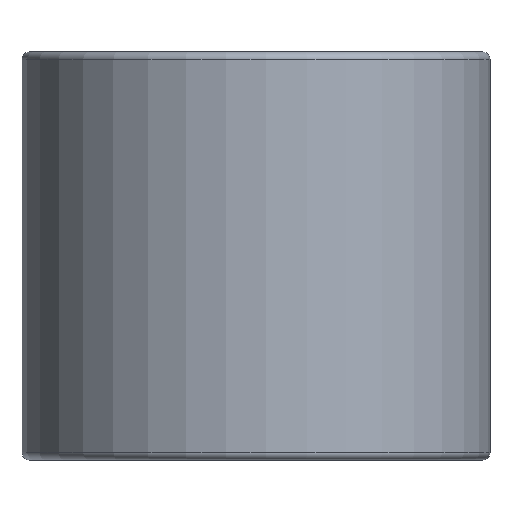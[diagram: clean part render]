
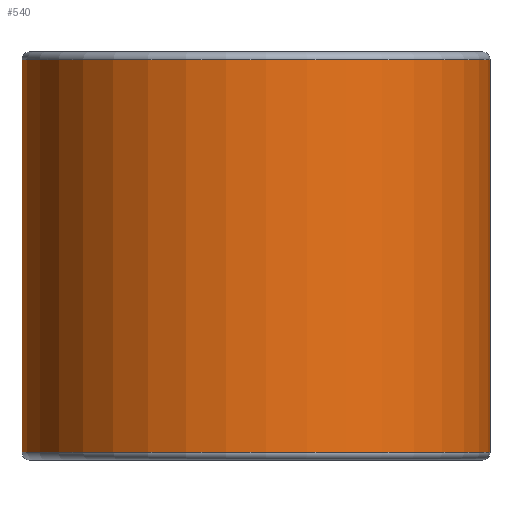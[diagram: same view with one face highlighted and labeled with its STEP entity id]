
A CAD part, front view. The second image highlights one B-rep face of the part: STEP entity #540.
In plain terms, the highlighted cylindrical face has radius 15.5 mm (diameter 31 mm), a full revolution.
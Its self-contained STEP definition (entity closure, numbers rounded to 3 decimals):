
#540=ADVANCED_FACE('',(#641,#642),#610,.T.);
#610=CYLINDRICAL_SURFACE('',#1375,15.5);
#641=FACE_BOUND('',#713,.T.);
#642=FACE_BOUND('',#714,.T.);
#713=EDGE_LOOP('',(#825));
#714=EDGE_LOOP('',(#826));
#825=ORIENTED_EDGE('',*,*,#1173,.T.);
#826=ORIENTED_EDGE('',*,*,#1174,.T.);
#1077=VERTEX_POINT('',#1865);
#1078=VERTEX_POINT('',#1867);
#1173=EDGE_CURVE('',#1077,#1077,#1301,.T.);
#1174=EDGE_CURVE('',#1078,#1078,#1302,.T.);
#1301=CIRCLE('',#1373,15.5);
#1302=CIRCLE('',#1374,15.5);
#1373=AXIS2_PLACEMENT_3D('',#1864,#1530,#1531);
#1374=AXIS2_PLACEMENT_3D('',#1866,#1532,#1533);
#1375=AXIS2_PLACEMENT_3D('',#1868,#1534,#1535);
#1530=DIRECTION('',(0.,0.,-1.));
#1531=DIRECTION('',(1.,0.,0.));
#1532=DIRECTION('',(0.,0.,1.));
#1533=DIRECTION('',(1.,0.,0.));
#1534=DIRECTION('',(0.,0.,-1.));
#1535=DIRECTION('',(-1.,0.,0.));
#1864=CARTESIAN_POINT('',(0.,0.,26.5));
#1865=CARTESIAN_POINT('',(15.5,0.,26.5));
#1866=CARTESIAN_POINT('',(0.,0.,0.5));
#1867=CARTESIAN_POINT('',(15.5,0.,0.5));
#1868=CARTESIAN_POINT('',(0.,0.,27.));
